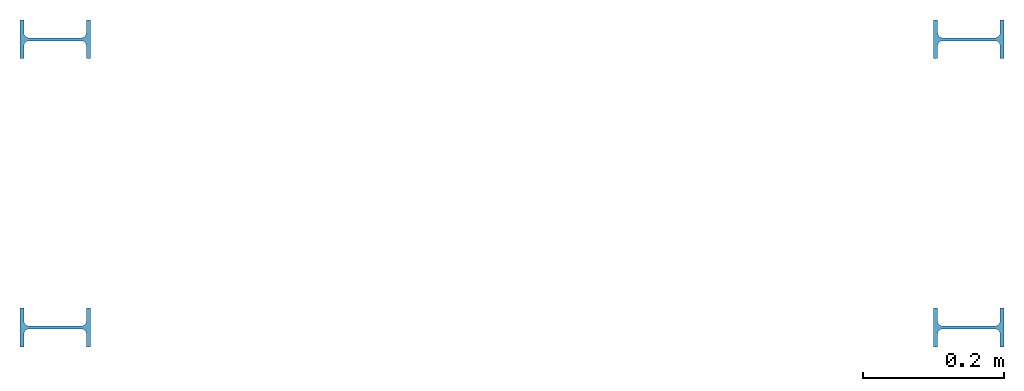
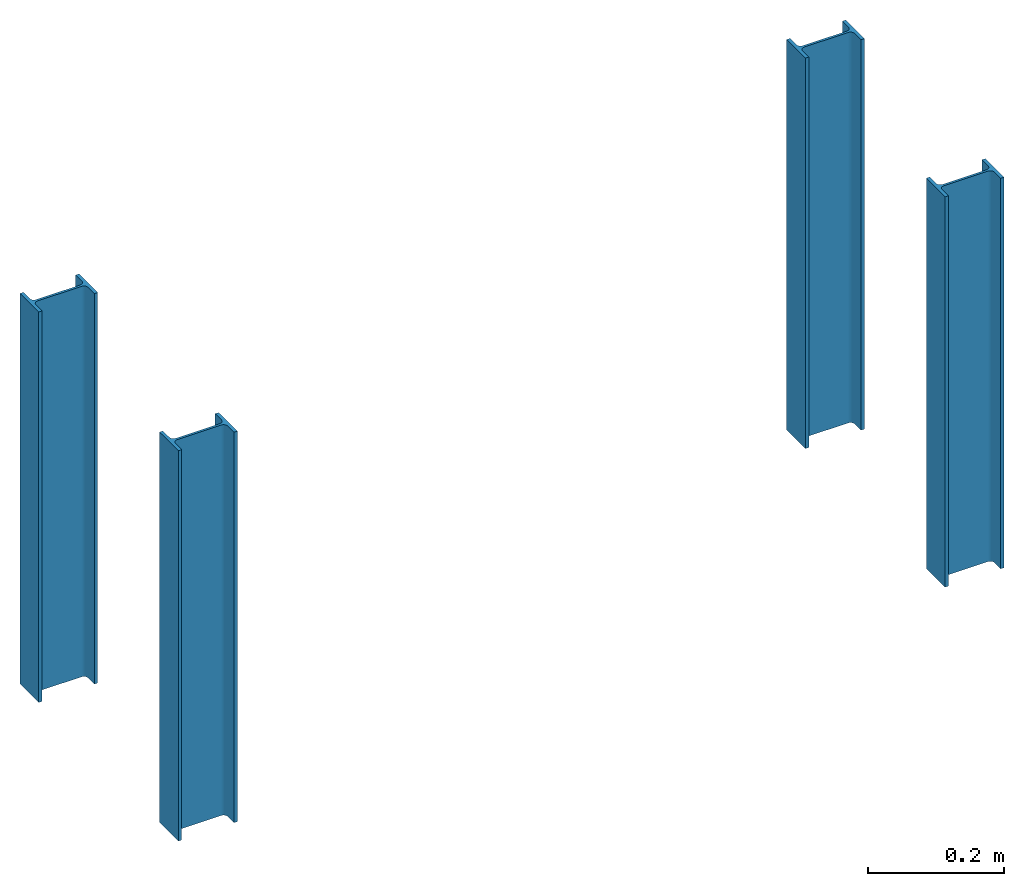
# One storey: 4 columns.
"""IFC4 building model written with IfcOpenShell, lengths in millimetres."""

from ifc_helpers import new_model, entity, si_unit, converted_unit, derived_unit, direction, frame, origin, place, context, subcontext, project, spatial, line, arc, indexed_curve, outline, extrude, source, transform, mapped, material, type_object, type_shapes, element, save


model = new_model("IFC4")

# Units and contexts
model_context = context("Model", 3, precision=0.01, world=origin(), true_north=direction((6.123031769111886e-17, 1.0)))
body_context = subcontext(model_context, "Body", "Model", "MODEL_VIEW")
ifc_project = project(units=[si_unit("LENGTHUNIT", "METRE", prefix="MILLI"), si_unit("AREAUNIT", "SQUARE_METRE"), si_unit("VOLUMEUNIT", "CUBIC_METRE"), converted_unit("PLANEANGLEUNIT", "DEGREE", entity("IfcRatioMeasure", 0.017453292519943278), si_unit("PLANEANGLEUNIT", "RADIAN"), dimensions=[0, 0, 0, 0, 0, 0, 0]), si_unit("MASSUNIT", "GRAM", prefix="KILO"), derived_unit("MASSDENSITYUNIT", [(si_unit("MASSUNIT", "GRAM", prefix="KILO"), 1), (si_unit("LENGTHUNIT", "METRE"), -3)]), derived_unit("MOMENTOFINERTIAUNIT", [(si_unit("LENGTHUNIT", "METRE"), 4)]), si_unit("TIMEUNIT", "SECOND"), si_unit("FREQUENCYUNIT", "HERTZ"), si_unit("THERMODYNAMICTEMPERATUREUNIT", "DEGREE_CELSIUS"), derived_unit("THERMALTRANSMITTANCEUNIT", [(si_unit("MASSUNIT", "GRAM", prefix="KILO"), 1), (si_unit("THERMODYNAMICTEMPERATUREUNIT", "KELVIN"), -1), (si_unit("TIMEUNIT", "SECOND"), -3)]), derived_unit("VOLUMETRICFLOWRATEUNIT", [(si_unit("LENGTHUNIT", "METRE"), 3), (si_unit("TIMEUNIT", "SECOND"), -1)]), derived_unit("MASSFLOWRATEUNIT", [(si_unit("MASSUNIT", "GRAM", prefix="KILO"), 1), (si_unit("TIMEUNIT", "SECOND"), -1)]), derived_unit("ROTATIONALFREQUENCYUNIT", [(si_unit("TIMEUNIT", "SECOND"), -1)]), si_unit("ELECTRICCURRENTUNIT", "AMPERE"), si_unit("ELECTRICVOLTAGEUNIT", "VOLT"), si_unit("POWERUNIT", "WATT"), si_unit("FORCEUNIT", "NEWTON", prefix="KILO"), si_unit("ILLUMINANCEUNIT", "LUX"), si_unit("LUMINOUSFLUXUNIT", "LUMEN"), si_unit("LUMINOUSINTENSITYUNIT", "CANDELA"), derived_unit("USERDEFINED", [(si_unit("MASSUNIT", "GRAM", prefix="KILO"), -1), (si_unit("LENGTHUNIT", "METRE"), -2), (si_unit("TIMEUNIT", "SECOND"), 3), (si_unit("LUMINOUSFLUXUNIT", "LUMEN"), 1)]), derived_unit("SOUNDPOWERUNIT", [(si_unit("MASSUNIT", "GRAM", prefix="KILO"), 1), (si_unit("LENGTHUNIT", "METRE"), 2), (si_unit("TIMEUNIT", "SECOND"), -3)]), derived_unit("SOUNDPRESSUREUNIT", [(si_unit("MASSUNIT", "GRAM", prefix="KILO"), 1), (si_unit("LENGTHUNIT", "METRE"), -1), (si_unit("TIMEUNIT", "SECOND"), -2)]), derived_unit("LINEARVELOCITYUNIT", [(si_unit("LENGTHUNIT", "METRE"), 1), (si_unit("TIMEUNIT", "SECOND"), -1)]), si_unit("PRESSUREUNIT", "PASCAL"), derived_unit("USERDEFINED", [(si_unit("LENGTHUNIT", "METRE"), -2), (si_unit("MASSUNIT", "GRAM", prefix="KILO"), 1), (si_unit("TIMEUNIT", "SECOND"), -2)]), derived_unit("LINEARFORCEUNIT", [(si_unit("MASSUNIT", "GRAM", prefix="KILO"), 1), (si_unit("LENGTHUNIT", "METRE"), 1), (si_unit("TIMEUNIT", "SECOND"), -2), (si_unit("LENGTHUNIT", "METRE"), -1)]), derived_unit("PLANARFORCEUNIT", [(si_unit("MASSUNIT", "GRAM", prefix="KILO"), 1), (si_unit("LENGTHUNIT", "METRE"), 1), (si_unit("TIMEUNIT", "SECOND"), -2), (si_unit("LENGTHUNIT", "METRE"), -2)])], contexts=[model_context])

# Site, building, storey
site_placement = place(None, origin())
site = spatial("IfcSite", under=ifc_project, at=site_placement, Name="Default", CompositionType="ELEMENT")
building_placement = place(site_placement, origin())
building = spatial("IfcBuilding", under=site, at=building_placement, CompositionType="ELEMENT")
storey_placement = place(building_placement, frame((0.0, 0.0, -950.0)))
storey = spatial("IfcBuildingStorey", under=building, at=storey_placement, Name="Base_Pilares", CompositionType="ELEMENT", Elevation=-950.0000000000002)

# Columns
ifc_material = material(Name="Structural Steel - S235", Category="Materials")
column_type_1 = type_object("IfcColumnType", Name="IPE Column:IPE100", PredefinedType="COLUMN", material=ifc_material)
shared_shape_1 = source(origin(), body_context, "Body", "SweptSolid", [
    extrude(outline(indexed_curve([(-27.5, -50.0), (27.499999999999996, -50.0), (27.499999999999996, -44.29999999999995), (9.050000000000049, -44.29999999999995), (4.100252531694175, -42.249747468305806), (2.0499999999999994, -37.29999999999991), (2.0499999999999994, 37.30000000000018), (4.10025253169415, 42.249747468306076), (9.050000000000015, 44.29999999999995), (27.499999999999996, 44.29999999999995), (27.499999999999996, 50.0), (-27.5, 50.0), (-27.5, 44.29999999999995), (-9.050000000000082, 44.29999999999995), (-4.100252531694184, 42.249747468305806), (-2.0499999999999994, 37.29999999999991), (-2.0499999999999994, -37.29999999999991), (-4.10025253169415, -42.249747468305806), (-9.04999999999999, -44.29999999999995), (-27.5, -44.29999999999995)], segments=[line(1, 2, 3, 4), arc(4, 5, 6), line(6, 7), arc(7, 8, 9), line(9, 10, 11, 12, 13, 14), arc(14, 15, 16), line(16, 17), arc(17, 18, 19), line(19, 20, 1)], self_intersect=False)), frame((1400.0, 45.0, -950.0), z_axis=(0.0, 0.0, 1.0), x_axis=(0.0, -1.0, 0.0)), (0.0, 0.0, 1.0), 700.0000000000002),
])
type_shapes(column_type_1, [shared_shape_1])
column_1_placement = place(storey_placement, frame((0.0, 0.0, 950.0)))
element("IfcColumn", 1, at=column_1_placement, inside=storey, type_object=column_type_1, material=ifc_material, Name="IPE Column:IPE100", ObjectType="IPE Column:IPE100", PredefinedType="COLUMN", context=body_context, shape_type="MappedRepresentation", body=[
    mapped(shared_shape_1, transform((0.0, 0.0, 0.0), scale=1.0)),
])
column_type_2 = type_object("IfcColumnType", Name="IPE Column:IPE100", PredefinedType="COLUMN", material=ifc_material)
shared_shape_2 = source(origin(), body_context, "Body", "SweptSolid", [
    extrude(outline(indexed_curve([(-27.499999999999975, -50.0), (27.500000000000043, -50.0), (27.500000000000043, -44.29999999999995), (9.050000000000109, -44.29999999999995), (4.100252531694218, -42.249747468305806), (2.0500000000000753, -37.29999999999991), (2.050000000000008, 37.30000000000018), (4.100252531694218, 42.249747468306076), (9.05000000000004, 44.29999999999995), (27.500000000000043, 44.29999999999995), (27.500000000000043, 50.0), (-27.499999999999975, 50.0), (-27.499999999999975, 44.29999999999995), (-9.05000000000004, 44.29999999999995), (-4.100252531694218, 42.249747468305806), (-2.04999999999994, 37.29999999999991), (-2.04999999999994, -37.29999999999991), (-4.100252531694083, -42.249747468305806), (-9.049999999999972, -44.29999999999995), (-27.499999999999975, -44.29999999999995)], segments=[line(1, 2, 3, 4), arc(4, 5, 6), line(6, 7), arc(7, 8, 9), line(9, 10, 11, 12, 13, 14), arc(14, 15, 16), line(16, 17), arc(17, 18, 19), line(19, 20, 1)], self_intersect=False)), frame((1400.0, 455.0, -950.0), z_axis=(0.0, 0.0, 1.0), x_axis=(0.0, -1.0, 0.0)), (0.0, 0.0, 1.0), 700.0000000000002),
])
type_shapes(column_type_2, [shared_shape_2])
column_2_placement = place(storey_placement, frame((0.0, 0.0, 950.0)))
element("IfcColumn", 2, at=column_2_placement, inside=storey, type_object=column_type_2, material=ifc_material, Name="IPE Column:IPE100", ObjectType="IPE Column:IPE100", PredefinedType="COLUMN", context=body_context, shape_type="MappedRepresentation", body=[
    mapped(shared_shape_2, transform((0.0, 0.0, 0.0), scale=1.0)),
])
column_type_3 = type_object("IfcColumnType", Name="IPE Column:IPE100", PredefinedType="COLUMN", material=ifc_material)
shared_shape_3 = source(origin(), body_context, "Body", "SweptSolid", [
    extrude(outline(indexed_curve([(-27.500000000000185, -49.99999999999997), (27.499999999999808, -50.00000000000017), (27.49999999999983, -44.300000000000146), (9.049999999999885, -44.29999999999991), (4.100252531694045, -42.24974746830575), (2.0499999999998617, -37.30000000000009), (2.050000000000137, 37.30000000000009), (4.100252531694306, 42.24974746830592), (9.050000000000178, 44.29999999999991), (27.50000000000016, 44.29999999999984), (27.50000000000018, 49.99999999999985), (-27.499999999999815, 50.00000000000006), (-27.499999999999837, 44.30000000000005), (-9.049999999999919, 44.30000000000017), (-4.1002525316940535, 42.249747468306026), (-2.0499999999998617, 37.299999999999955), (-2.0500000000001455, -37.299999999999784), (-4.100252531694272, -42.24974746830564), (-9.050000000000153, -44.30000000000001), (-27.500000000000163, -44.29999999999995)], segments=[line(1, 2, 3, 4), arc(4, 5, 6), line(6, 7), arc(7, 8, 9), line(9, 10, 11, 12, 13, 14), arc(14, 15, 16), line(16, 17), arc(17, 18, 19), line(19, 20, 1)], self_intersect=False)), frame((100.0, 45.0, -950.0), z_axis=(0.0, 0.0, 1.0), x_axis=(0.0, -1.0, 0.0)), (0.0, 0.0, 1.0), 700.0000000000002),
])
type_shapes(column_type_3, [shared_shape_3])
column_3_placement = place(storey_placement, frame((0.0, 0.0, 950.0)))
element("IfcColumn", 3, at=column_3_placement, inside=storey, type_object=column_type_3, material=ifc_material, Name="IPE Column:IPE100", ObjectType="IPE Column:IPE100", PredefinedType="COLUMN", context=body_context, shape_type="MappedRepresentation", body=[
    mapped(shared_shape_3, transform((0.0, 0.0, 0.0), scale=1.0)),
])
column_type_4 = type_object("IfcColumnType", Name="IPE Column:IPE100", PredefinedType="COLUMN", material=ifc_material)
shared_shape_4 = source(origin(), body_context, "Body", "SweptSolid", [
    extrude(outline(indexed_curve([(-27.50000000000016, -49.99999999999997), (27.499999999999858, -50.00000000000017), (27.49999999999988, -44.300000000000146), (9.049999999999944, -44.299999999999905), (4.1002525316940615, -42.24974746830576), (2.0499999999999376, -37.30000000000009), (2.0500000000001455, 37.30000000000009), (4.100252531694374, 42.24974746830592), (9.050000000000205, 44.29999999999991), (27.500000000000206, 44.29999999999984), (27.500000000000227, 49.99999999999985), (-27.49999999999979, 50.00000000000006), (-27.499999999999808, 44.30000000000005), (-9.049999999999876, 44.30000000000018), (-4.1002525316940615, 42.249747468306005), (-2.049999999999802, 37.299999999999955), (-2.0500000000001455, -37.299999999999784), (-4.100252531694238, -42.24974746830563), (-9.050000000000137, -44.30000000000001), (-27.50000000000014, -44.29999999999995)], segments=[line(1, 2, 3, 4), arc(4, 5, 6), line(6, 7), arc(7, 8, 9), line(9, 10, 11, 12, 13, 14), arc(14, 15, 16), line(16, 17), arc(17, 18, 19), line(19, 20, 1)], self_intersect=False)), frame((100.0, 455.0, -950.0), z_axis=(0.0, 0.0, 1.0), x_axis=(0.0, -1.0, 0.0)), (0.0, 0.0, 1.0), 700.0000000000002),
])
type_shapes(column_type_4, [shared_shape_4])
column_4_placement = place(storey_placement, frame((0.0, 0.0, 950.0)))
element("IfcColumn", 4, at=column_4_placement, inside=storey, type_object=column_type_4, material=ifc_material, Name="IPE Column:IPE100", ObjectType="IPE Column:IPE100", PredefinedType="COLUMN", context=body_context, shape_type="MappedRepresentation", body=[
    mapped(shared_shape_4, transform((0.0, 0.0, 0.0), scale=1.0)),
])

save(model, "model.ifc")
